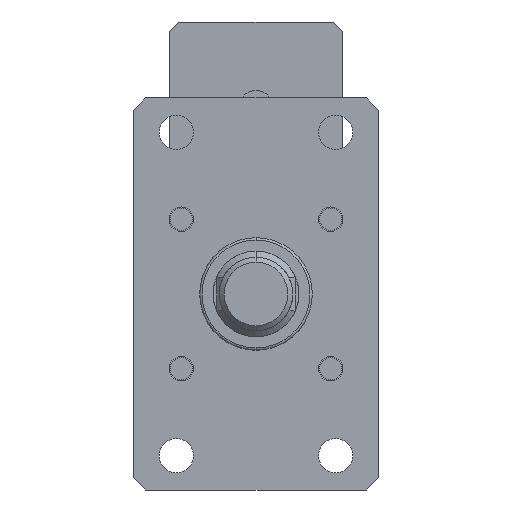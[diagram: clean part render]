
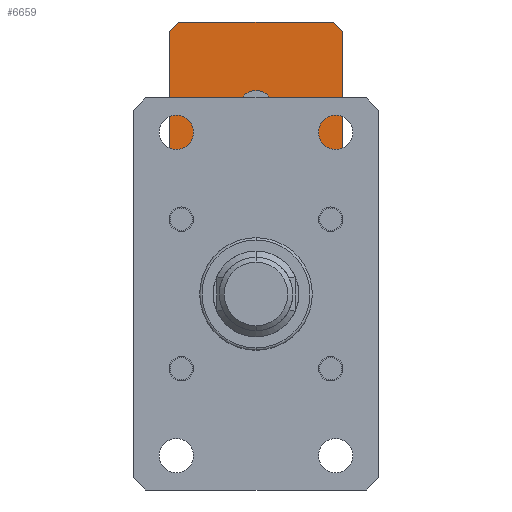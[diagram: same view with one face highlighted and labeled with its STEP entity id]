
A CAD part, front view. The second image highlights one B-rep face of the part: STEP entity #6659.
In plain terms, the highlighted planar face has unit normal (0, -1, 0).
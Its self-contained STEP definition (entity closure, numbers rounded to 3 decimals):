
#80 = VERTEX_POINT ( 'NONE', #5479 ) ;
#128 = ORIENTED_EDGE ( 'NONE', *, *, #2013, .T. ) ;
#133 = ORIENTED_EDGE ( 'NONE', *, *, #6554, .T. ) ;
#342 = DIRECTION ( 'NONE',  ( 0., 0., -1. ) ) ;
#360 = DIRECTION ( 'NONE',  ( 0., 0., 1. ) ) ;
#459 = CARTESIAN_POINT ( 'NONE',  ( 0., 210., 68. ) ) ;
#468 = CARTESIAN_POINT ( 'NONE',  ( 0., 210., 75.5 ) ) ;
#752 = VECTOR ( 'NONE', #1418, 1000. ) ;
#759 = CARTESIAN_POINT ( 'NONE',  ( 35.5, 210., 44. ) ) ;
#823 = ORIENTED_EDGE ( 'NONE', *, *, #6781, .T. ) ;
#845 = LINE ( 'NONE', #1845, #5111 ) ;
#898 = DIRECTION ( 'NONE',  ( 0., 1., 0. ) ) ;
#948 = DIRECTION ( 'NONE',  ( 0., -1., 0. ) ) ;
#973 = DIRECTION ( 'NONE',  ( 0., 0., -1. ) ) ;
#1042 = DIRECTION ( 'NONE',  ( 0., 0., -1. ) ) ;
#1050 = ORIENTED_EDGE ( 'NONE', *, *, #2789, .T. ) ;
#1247 = EDGE_CURVE ( 'NONE', #3762, #6368, #5609, .T. ) ;
#1355 = CARTESIAN_POINT ( 'NONE',  ( -35.5, 210., 40. ) ) ;
#1418 = DIRECTION ( 'NONE',  ( -0.707, 0., -0.707 ) ) ;
#1845 = CARTESIAN_POINT ( 'NONE',  ( -35.5, 210., 44. ) ) ;
#1917 = DIRECTION ( 'NONE',  ( 1., 0., 0. ) ) ;
#1929 = LINE ( 'NONE', #2831, #4533 ) ;
#2013 = EDGE_CURVE ( 'NONE', #3601, #3530, #2237, .T. ) ;
#2018 = VECTOR ( 'NONE', #342, 1000. ) ;
#2190 = LINE ( 'NONE', #6475, #2018 ) ;
#2237 = LINE ( 'NONE', #5347, #752 ) ;
#2273 = EDGE_CURVE ( 'NONE', #4436, #80, #845, .T. ) ;
#2509 = LINE ( 'NONE', #4322, #6789 ) ;
#2555 = CARTESIAN_POINT ( 'NONE',  ( 35.5, 210., 107. ) ) ;
#2597 = LINE ( 'NONE', #1355, #5390 ) ;
#2647 = VERTEX_POINT ( 'NONE', #2555 ) ;
#2676 = EDGE_LOOP ( 'NONE', ( #823, #2878, #133, #4717, #2914, #1050, #3693, #128 ) ) ;
#2789 = EDGE_CURVE ( 'NONE', #2647, #5103, #3113, .T. ) ;
#2831 = CARTESIAN_POINT ( 'NONE',  ( -35.5, 210., 111. ) ) ;
#2878 = ORIENTED_EDGE ( 'NONE', *, *, #2273, .T. ) ;
#2914 = ORIENTED_EDGE ( 'NONE', *, *, #5137, .F. ) ;
#2944 = AXIS2_PLACEMENT_3D ( 'NONE', #6487, #898, #360 ) ;
#3104 = CARTESIAN_POINT ( 'NONE',  ( -35.5, 210., 107. ) ) ;
#3113 = LINE ( 'NONE', #4385, #5893 ) ;
#3214 = FACE_OUTER_BOUND ( 'NONE', #2676, .T. ) ;
#3316 = AXIS2_PLACEMENT_3D ( 'NONE', #4272, #948, #4836 ) ;
#3373 = VERTEX_POINT ( 'NONE', #3623 ) ;
#3394 = DIRECTION ( 'NONE',  ( 1., 0., 0. ) ) ;
#3530 = VERTEX_POINT ( 'NONE', #3104 ) ;
#3601 = VERTEX_POINT ( 'NONE', #6523 ) ;
#3623 = CARTESIAN_POINT ( 'NONE',  ( 0., 210., 83. ) ) ;
#3693 = ORIENTED_EDGE ( 'NONE', *, *, #4513, .F. ) ;
#3730 = CIRCLE ( 'NONE', #3845, 7.5 ) ;
#3762 = VERTEX_POINT ( 'NONE', #6809 ) ;
#3845 = AXIS2_PLACEMENT_3D ( 'NONE', #468, #4364, #1042 ) ;
#4108 = VECTOR ( 'NONE', #4644, 1000. ) ;
#4272 = CARTESIAN_POINT ( 'NONE',  ( 0., 210., 75.5 ) ) ;
#4322 = CARTESIAN_POINT ( 'NONE',  ( -35.5, 210., 111. ) ) ;
#4364 = DIRECTION ( 'NONE',  ( 0., -1., 0. ) ) ;
#4385 = CARTESIAN_POINT ( 'NONE',  ( 31.5, 210., 111. ) ) ;
#4436 = VERTEX_POINT ( 'NONE', #4439 ) ;
#4439 = CARTESIAN_POINT ( 'NONE',  ( -35.5, 210., 44. ) ) ;
#4498 = CIRCLE ( 'NONE', #3316, 7.5 ) ;
#4513 = EDGE_CURVE ( 'NONE', #3601, #5103, #1929, .T. ) ;
#4533 = VECTOR ( 'NONE', #3394, 1000. ) ;
#4644 = DIRECTION ( 'NONE',  ( 0.707, 0., 0.707 ) ) ;
#4668 = FACE_BOUND ( 'NONE', #5925, .T. ) ;
#4717 = ORIENTED_EDGE ( 'NONE', *, *, #1247, .T. ) ;
#4732 = CARTESIAN_POINT ( 'NONE',  ( 31.5, 210., 111. ) ) ;
#4836 = DIRECTION ( 'NONE',  ( 0., 0., -1. ) ) ;
#4963 = DIRECTION ( 'NONE',  ( -0.707, 0., 0.707 ) ) ;
#5103 = VERTEX_POINT ( 'NONE', #4732 ) ;
#5111 = VECTOR ( 'NONE', #5186, 1000. ) ;
#5137 = EDGE_CURVE ( 'NONE', #2647, #6368, #2190, .T. ) ;
#5186 = DIRECTION ( 'NONE',  ( 0.707, 0., -0.707 ) ) ;
#5225 = ORIENTED_EDGE ( 'NONE', *, *, #5646, .F. ) ;
#5347 = CARTESIAN_POINT ( 'NONE',  ( -31.5, 210., 111. ) ) ;
#5390 = VECTOR ( 'NONE', #1917, 1000. ) ;
#5479 = CARTESIAN_POINT ( 'NONE',  ( -31.5, 210., 40. ) ) ;
#5593 = CARTESIAN_POINT ( 'NONE',  ( 35.5, 210., 44. ) ) ;
#5609 = LINE ( 'NONE', #759, #4108 ) ;
#5646 = EDGE_CURVE ( 'NONE', #6264, #3373, #3730, .T. ) ;
#5893 = VECTOR ( 'NONE', #4963, 1000. ) ;
#5925 = EDGE_LOOP ( 'NONE', ( #5225, #6160 ) ) ;
#6160 = ORIENTED_EDGE ( 'NONE', *, *, #6675, .F. ) ;
#6264 = VERTEX_POINT ( 'NONE', #459 ) ;
#6368 = VERTEX_POINT ( 'NONE', #5593 ) ;
#6475 = CARTESIAN_POINT ( 'NONE',  ( 35.5, 210., 111. ) ) ;
#6487 = CARTESIAN_POINT ( 'NONE',  ( -35.5, 210., 111. ) ) ;
#6523 = CARTESIAN_POINT ( 'NONE',  ( -31.5, 210., 111. ) ) ;
#6554 = EDGE_CURVE ( 'NONE', #80, #3762, #2597, .T. ) ;
#6659 = ADVANCED_FACE ( 'NONE', ( #4668, #3214 ), #7049, .F. ) ;
#6675 = EDGE_CURVE ( 'NONE', #3373, #6264, #4498, .T. ) ;
#6781 = EDGE_CURVE ( 'NONE', #3530, #4436, #2509, .T. ) ;
#6789 = VECTOR ( 'NONE', #973, 1000. ) ;
#6809 = CARTESIAN_POINT ( 'NONE',  ( 31.5, 210., 40. ) ) ;
#7049 = PLANE ( 'NONE',  #2944 ) ;
